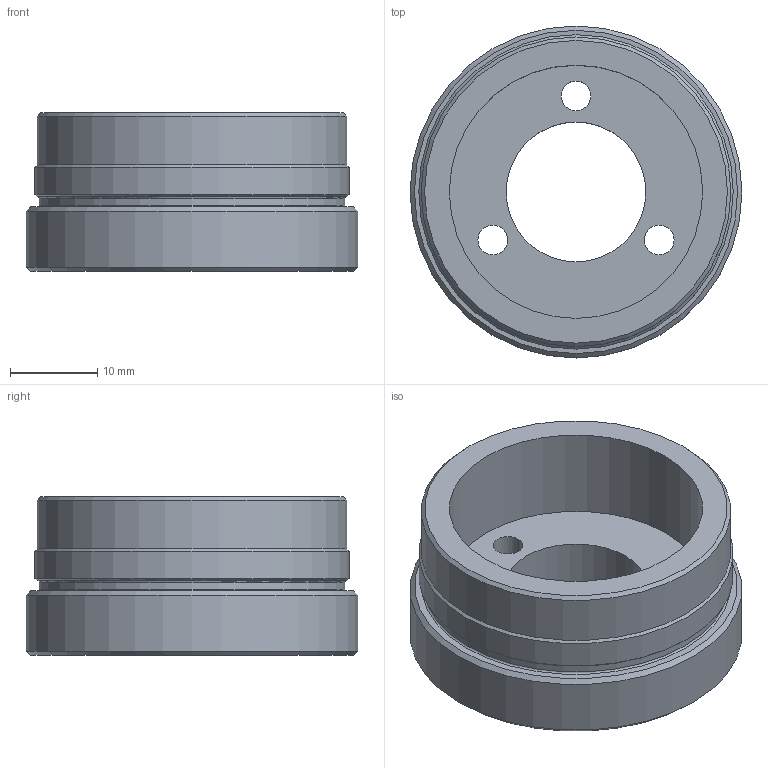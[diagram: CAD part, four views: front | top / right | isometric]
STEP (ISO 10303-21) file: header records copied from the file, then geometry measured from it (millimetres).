
FILE_DESCRIPTION(/* description */ (''),/* implementation_level */ '2;1');
FILE_NAME(/* name */ '38-A_flange_c.stp',/* time_stamp */ '2016-09-16T13:12:44+02:00',/* author */ ('DR. FRITZ FAULHABER GmbH & Co. KG'),/* organization */ ('DR. FRITZ FAULHABER GmbH & Co. KG'),/* preprocessor_version */ 'ST-DEVELOPER v16',/* originating_system */ 'SIEMENS PLM Software NX 10.0',/* authorisation */ '');
FILE_SCHEMA (('AUTOMOTIVE_DESIGN { 1 0 10303 214 3 1 1 1 }'));
Length unit declared in the file: millimetre
Products named in the file (1): huge19E82220l2rg
Bounding box: 38 x 38 x 18.2 mm (x, y, z)
Volume: 10312.9 mm3; surface area: 5456.2 mm2
Topology: 1 solids, 1 shells, 20 faces, 42 edges, 26 vertices
Faces by surface type: cylinder 9, cone 5, plane 4, torus 2
Full cylindrical faces by diameter (mm): 3.4 x3, 16 x1, 29 x1, 35 x1, 35.46 x1, 36 x1, 38 x1
Entity records: 496 total; most frequent: DIRECTION 86, CARTESIAN_POINT 84, FACE_BOUND 46, EDGE_LOOP 46, ORIENTED_EDGE 46, AXIS2_PLACEMENT_3D 43, VERTEX_POINT 23, EDGE_CURVE 23
